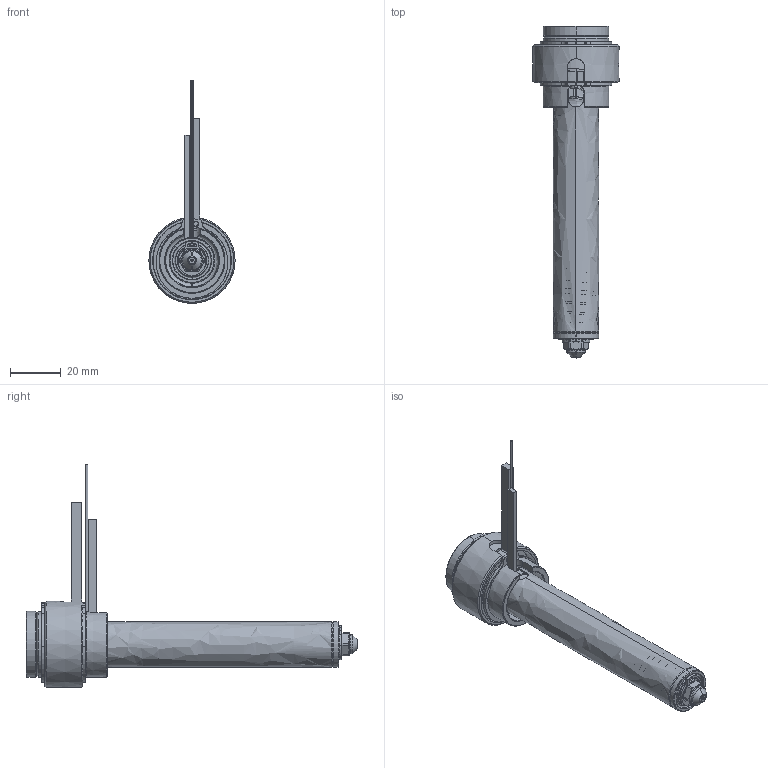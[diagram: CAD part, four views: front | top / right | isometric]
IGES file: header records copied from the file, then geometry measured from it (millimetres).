
Start section: SolidWorks IGES file using analytic representation for surfaces
Global section: file name: C:\Documents and Settings\ws-20\Desktop\TEM\UGER2504-S-A-0 [Øb-0.90 ØC-5.0].IGS; native system: SolidWorks 2012; preprocessor: SolidWorks 2012; author: ws-20; date: 120405.105421; units: millimetre
Bounding box: 34 x 130.9 x 87.9 mm (x, y, z)
Surface area: 21826.5 mm2 (no closed solid volume)
Topology: 0 solids, 0 shells, 191 faces, 2425 edges, 2425 vertices
Faces by surface type: revolution 122, bspline 69
